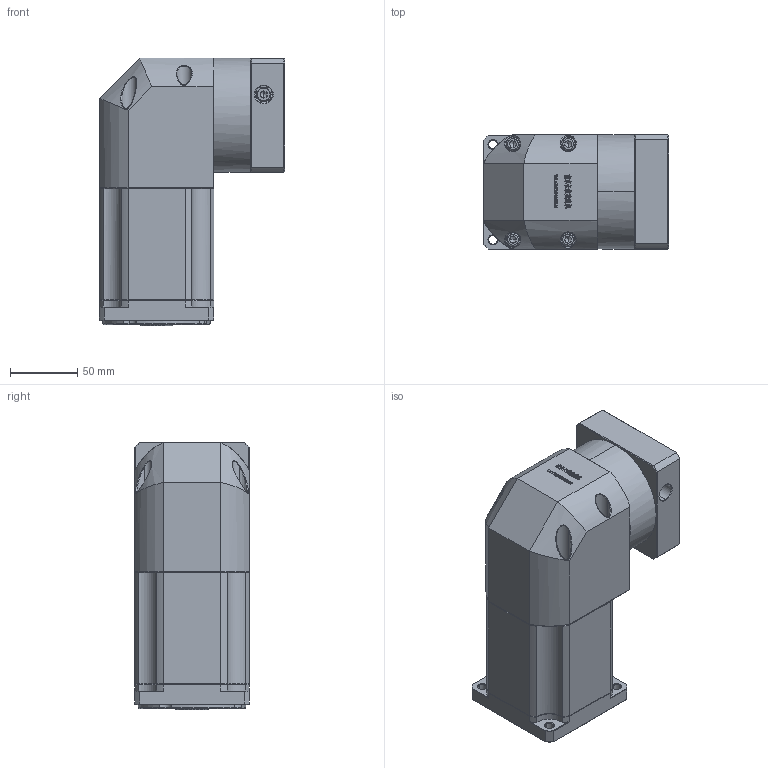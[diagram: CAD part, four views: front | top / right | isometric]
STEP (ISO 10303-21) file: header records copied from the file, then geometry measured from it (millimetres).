
FILE_DESCRIPTION (( 'STEP AP214' ), '1' );
FILE_NAME ('ZBR90-K15-L3-16-80-100-M6.step', '2022-05-07T15:05:25', ( '' ), ( 'Microsoft' ), 'SwSTEP 2.0', 'SolidWorks 2016', '' );
FILE_SCHEMA (( 'AUTOMOTIVE_DESIGN' ));
Length unit declared in the file: millimetre
Products named in the file (1): ZBR90-K15-L3-16-80-100-M6
Bounding box: 137.6 x 85 x 199 mm (x, y, z)
Volume: 1472582.6 mm3; surface area: 143522.6 mm2
Topology: 5 solids, 5 shells, 2948 faces, 7807 edges, 4994 vertices
Faces by surface type: plane 1568, bspline 596, cylinder 411, cone 349, torus 24
Entity records: 157501 total; most frequent: CARTESIAN_POINT 56625, ORIENTED_EDGE 15542, DIRECTION 11897, EDGE_CURVE 7771, VECTOR 5219, LINE 5219, VERTEX_POINT 4994, AXIS2_PLACEMENT_3D 3339
